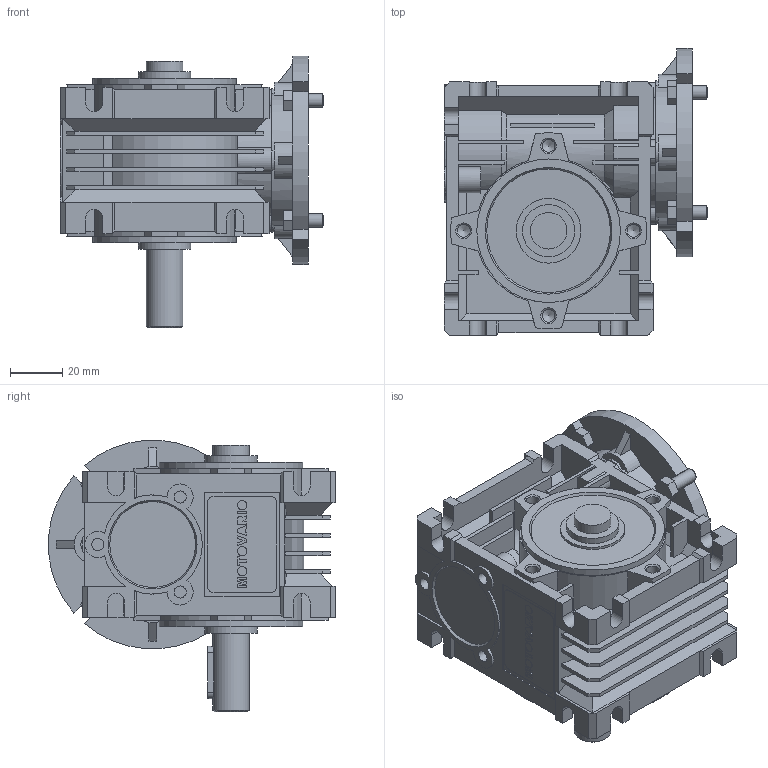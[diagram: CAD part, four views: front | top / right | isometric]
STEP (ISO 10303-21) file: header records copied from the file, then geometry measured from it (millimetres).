
FILE_DESCRIPTION(/* description */ ('STEP AP203'),/* implementation_level */ '2;1');
FILE_NAME(/* name */ 'NMRV0301311411112300NO---_---------------',/* time_stamp */ '2025-12-03T08:25:39+01:00',/* author */ ('License CC BY-ND 4.0'),/* organization */ ('CADENAS'),/* preprocessor_version */ 'ST-DEVELOPER v20',/* originating_system */ 'PARTsolutions',/* authorisation */ ' ');
FILE_SCHEMA (('CONFIG_CONTROL_DESIGN'));
Length unit declared in the file: millimetre
Products named in the file (6): NMRV0301311411112300NO---(---------------); Gear unit 30; 030-14 (63)alc-n; AL 030-14(1-2); VB 030-09 (9); 30-56 B14
Assembly tree (5 placements, depth 2):
  NMRV0301311411112300NO---(---------------)
    Gear unit 30
    030-14 (63)alc-n
    AL 030-14(1-2)
    VB 030-09 (9)
    30-56 B14
Bounding box: 101 x 109.87 x 103.87 mm (x, y, z)
Volume: 349344.2 mm3; surface area: 113830.7 mm2
Topology: 5 solids, 12 shells, 840 faces, 2223 edges, 1449 vertices
Faces by surface type: plane 606, cylinder 182, cone 52
Full cylindrical faces by diameter (mm): 3.545 x3, 4.65 x3, 4.917 x9, 5 x4, 6.4 x1, 10 x4, 14 x3, 19 x2, 20 x2, 24.8 x2, 30 x2, 37 x1, 38 x1, 55 x2
Entity records: 25589 total; most frequent: CARTESIAN_POINT 4681, ORIENTED_EDGE 4286, DIRECTION 4246, EDGE_CURVE 2143, LINE 1580, VECTOR 1580, VERTEX_POINT 1443, AXIS2_PLACEMENT_3D 1333
